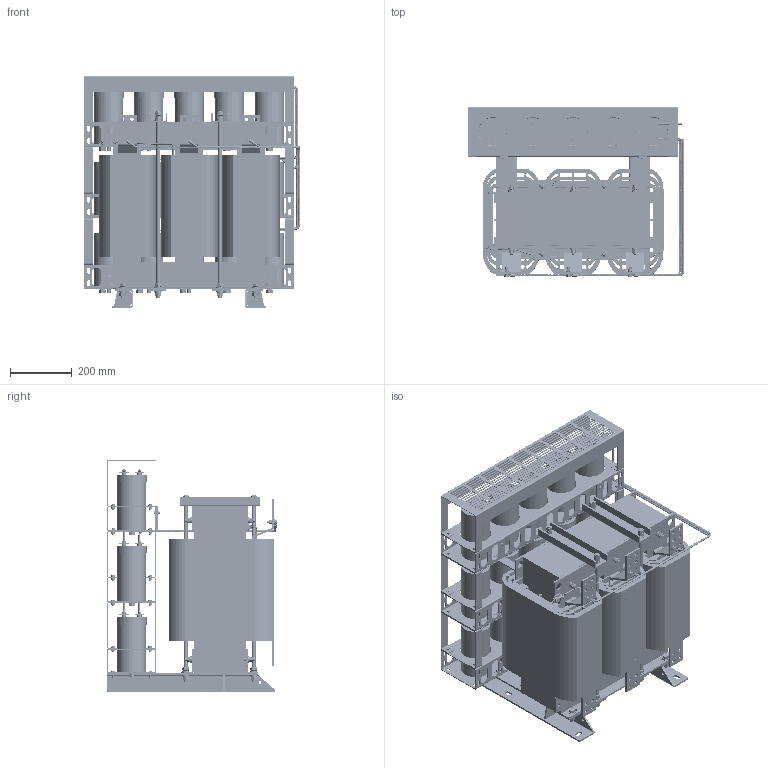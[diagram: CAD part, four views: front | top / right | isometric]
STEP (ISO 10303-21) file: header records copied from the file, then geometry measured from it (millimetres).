
FILE_DESCRIPTION(('STEP AP203'), '1');
FILE_NAME('蔓躅漤铋 耔眢耥 翳朦蝠 _ ISINOF-500_556-6', '', ('UNSPECIFIED'), ('UNSPECIFIED'), 'C3D Converter', 'C3D Toolkit', '');
FILE_SCHEMA(('CONFIG_CONTROL_DESIGN'));
Length unit declared in the file: millimetre
Products named in the file (25): ISINOF-500/556-6; 587A3D; 吒X2\0425\X0\94-180; 琵X2\04370418042D0451041704270423\X0\; 琵X2\04370418042D0426\X0\吭X2\0458042C\X0\; Ц吭X2\045604150426\X0\吭X2\0458042C\X0\; LРНЦ吭X2\04560415\X0\; Б枯X2\0405042304150415\X0\; ФІРНВг跚X2\041B04270423\X0\; plain washers--product grade c gb_GB_FASTENER_WASHER_SMWC 6; hexagon head bolts-full thread gb_GB_FASTENER_BOLT_STBAB A M6X16-N; Cable_7-ХэПТІЁВЛІЁЖчSKS-SF-0587-6AЈЇ05.SLDPRT; 琵X2\043704100412\X0\^Cable_7-ХэПТІЁВЛІЁЖчSKS-SF-0587-6AЈЇ05.SLDPRT; Cable_8-ХэПТІЁВЛІЁЖчSKS-SF-0587-6AЈЇ05.SLDPRT-001; 琵X2\043704100412\X0\^Cable_8-ХэПТІЁВЛІЁЖчSKS-SF-0587-6AЈЇ05.SLDPRT-001; Cable_9-ХэПТІЁВЛІЁЖчSKS-SF-0587-6AЈЇ05.SLDPRT; 琵X2\043704100412\X0\^Cable_9-ХэПТІЁВЛІЁЖчSKS-SF-0587-6AЈЇ05.SLDPRT; Cable_10-ХэПТІЁВЛІЁЖчSKS-SF-0587-6AЈЇ05.SLDPRT; 琵X2\043704100412\X0\^Cable_10-ХэПТІЁВЛІЁЖчSKS-SF-0587-6AЈЇ05.SLDPRT; hexagon nuts grade c gb_GB_FASTENER_NUT_SNC1 M12-N; hexagon head bolts-full thread gb_GB_FASTENER_BOLT_STBAB A M6X20-N; L1 L2 L3МщЦЅ; L1ЎЇ L2Ўｮ L3ЎЇМщЦЅ; 琵X2\0428\X0\崤X2\043A\X0\; ПВјРјю-490ЎБ80ЎБ40 јУЅУ琵X2\042804570427\X0\
Assembly tree (173 placements, depth 3):
  ISINOF-500/556-6
    587A3D
    吒X2\0425\X0\94-180  x15
    琵X2\04370418042D0451041704270423\X0\
    琵X2\04370418042D0426\X0\吭X2\0458042C\X0\  x3
    Ц吭X2\045604150426\X0\吭X2\0458042C\X0\  x4
    LРНЦ吭X2\04560415\X0\  x2
    Б枯X2\0405042304150415\X0\  x6
    ФІРНВг跚X2\041B04270423\X0\  x6
    plain washers--product grade c gb_GB_FASTENER_WASHER_SMWC 6  x56
    hexagon head bolts-full thread gb_GB_FASTENER_BOLT_STBAB A M6X16-N  x46
    Cable_7-ХэПТІЁВЛІЁЖчSKS-SF-0587-6AЈЇ05.SLDPRT
      琵X2\043704100412\X0\^Cable_7-ХэПТІЁВЛІЁЖчSKS-SF-0587-6AЈЇ05.SLDPRT
    Cable_8-ХэПТІЁВЛІЁЖчSKS-SF-0587-6AЈЇ05.SLDPRT-001
      琵X2\043704100412\X0\^Cable_8-ХэПТІЁВЛІЁЖчSKS-SF-0587-6AЈЇ05.SLDPRT-001
    Cable_9-ХэПТІЁВЛІЁЖчSKS-SF-0587-6AЈЇ05.SLDPRT
      琵X2\043704100412\X0\^Cable_9-ХэПТІЁВЛІЁЖчSKS-SF-0587-6AЈЇ05.SLDPRT
    Cable_10-ХэПТІЁВЛІЁЖчSKS-SF-0587-6AЈЇ05.SLDPRT
      琵X2\043704100412\X0\^Cable_10-ХэПТІЁВЛІЁЖчSKS-SF-0587-6AЈЇ05.SLDPRT
    hexagon nuts grade c gb_GB_FASTENER_NUT_SNC1 M12-N  x15
    hexagon head bolts-full thread gb_GB_FASTENER_BOLT_STBAB A M6X20-N  x6
    L1 L2 L3МщЦЅ
    L1ЎЇ L2Ўｮ L3ЎЇМщЦЅ
    琵X2\0428\X0\崤X2\043A\X0\
    ПВјРјю-490ЎБ80ЎБ40 јУЅУ琵X2\042804570427\X0\
Bounding box: 698.81 x 550.21 x 750 mm (x, y, z)
Volume: 89978535.2 mm3; surface area: 12727055.5 mm2
Topology: 442 solids, 442 shells, 6869 faces, 16363 edges, 10688 vertices
Faces by surface type: plane 3989, cylinder 1988, cone 734, bspline 117, torus 41
Full cylindrical faces by diameter (mm): 2 x12, 3 x2, 3.8 x2, 4 x8, 6 x132, 6.5 x4, 6.6 x56, 6.737 x3, 7 x6, 8 x37, 8.422 x12, 8.667 x6, 9 x2, 9.125 x4, 10 x6, 10.106 x35, 10.667 x3, 10.675 x6, 10.75 x12, 10.833 x24, 11 x48, 12 x83, 12.9 x12, 13 x35, 14 x37, 15.917 x12, 16 x36, 19.1 x12, 20 x24, 24 x20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
Entity records: 182086 total; most frequent: CARTESIAN_POINT 58793, DIRECTION 17823, ORIENTED_EDGE 17070, EDGE_CURVE 8535, AXIS2_PLACEMENT_3D 6570, VERTEX_POINT 5954, EDGE_LOOP 5029, LINE 4683
